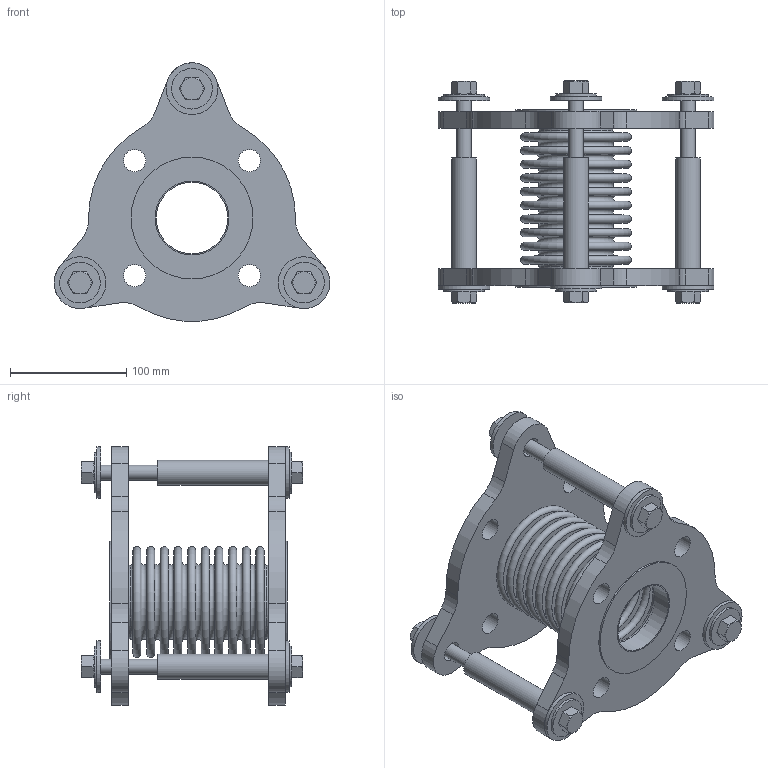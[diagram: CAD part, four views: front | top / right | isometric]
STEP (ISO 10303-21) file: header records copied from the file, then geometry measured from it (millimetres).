
FILE_DESCRIPTION(/* description */ (''),/* implementation_level */ '2;1');
FILE_NAME(/* name */ 'C:\001_Work\Designs\RFB\RFB-2.5x6.stp',/* time_stamp */ '2016-04-29T08:47:50-04:00',/* author */ ('rramoutar'),/* organization */ ('Mason Industries Inc.'),/* preprocessor_version */ 'ST-DEVELOPER v15.6',/* originating_system */ 'Autodesk Inventor 2015',/* authorisation */ '');
FILE_SCHEMA (('CONFIG_CONTROL_DESIGN'));
Length unit declared in the file: inch
Products named in the file (1): 2.5in_RFB_150FLANGE
Bounding box: 236.92 x 190.51 x 221.99 mm (x, y, z)
Volume: 1045756.5 mm3; surface area: 445648.3 mm2
Topology: 24 solids, 24 shells, 325 faces, 655 edges, 423 vertices
Faces by surface type: plane 141, cylinder 82, cone 60, torus 42
Full cylindrical faces by diameter (mm): 10.592 x3, 12.7 x9, 14.287 x6, 15.799 x3, 17.462 x6, 19.05 x8, 21.336 x3, 34.925 x6, 44.45 x6, 61.468 x2, 63.5 x4, 104.775 x2
Entity records: 8211 total; most frequent: CARTESIAN_POINT 1468, DIRECTION 1374, ORIENTED_EDGE 1052, AXIS2_PLACEMENT_3D 630, EDGE_LOOP 546, EDGE_CURVE 526, VERTEX_POINT 400, STYLED_ITEM 349
